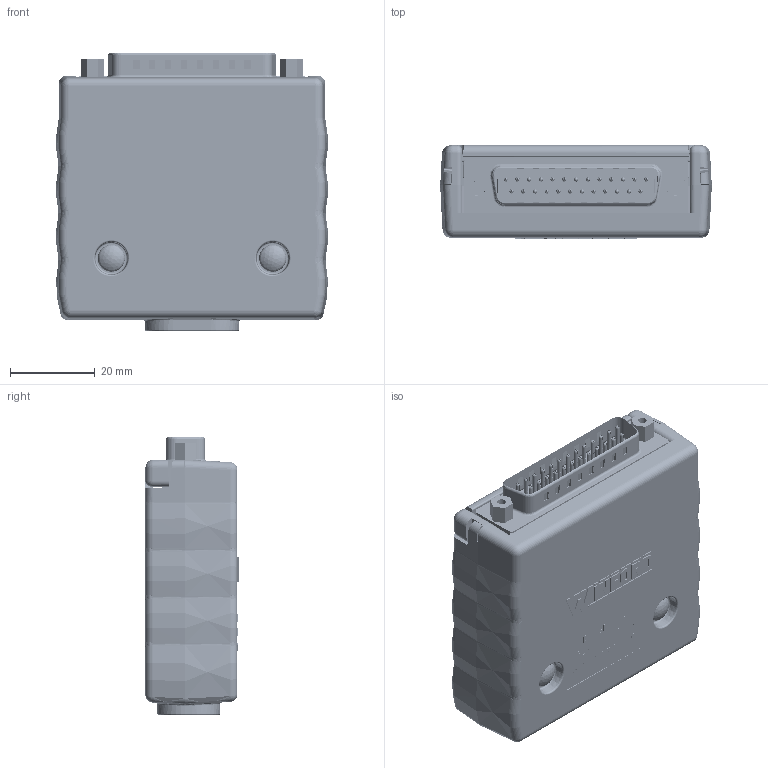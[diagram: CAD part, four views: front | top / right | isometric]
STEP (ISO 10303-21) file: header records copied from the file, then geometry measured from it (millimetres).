
FILE_DESCRIPTION (( 'STEP AP214' ), '1' );
FILE_NAME ('brkegd25m-r_rev_a.stp', '2020-12-28T00:51:33', ( '' ), ( '' ), 'SwSTEP 2.0', 'SolidWorks 2017', '' );
FILE_SCHEMA (( 'AUTOMOTIVE_DESIGN' ));
Length unit declared in the file: inch
Products named in the file (12): BRKEGD25M Board; 3.5 x 5 Nylon 6 Snap Rivet; ECB25A1 Base; Enclosure_Screw Ph 4-40 x .625_90272A112; BRKEGD25M Assembly_BRKEGD25M-R; Spring Terminal 7; Enclosure #4-40 Insert_92395A112; BRKEGD25M-R Label; ECB25A1 Cover; Male Right Angle 25 Pin; Spring Terminal 6; brkegd25m-r_rev_a
Assembly tree (16 placements, depth 3):
  brkegd25m-r_rev_a
    ECB25A1 Base
    ECB25A1 Cover
    3.5 x 5 Nylon 6 Snap Rivet  x2
    Enclosure_Screw Ph 4-40 x .625_90272A112  x2
    BRKEGD25M-R Label
    Enclosure #4-40 Insert_92395A112  x2
    BRKEGD25M Assembly_BRKEGD25M-R
      BRKEGD25M Board
      Male Right Angle 25 Pin
      Spring Terminal 6  x2
      Spring Terminal 7  x2
Bounding box: 64.15 x 22 x 65.71 mm (x, y, z)
Volume: 25841 mm3; surface area: 54756.2 mm2
Topology: 18 solids, 288 shells, 18711 faces, 46865 edges, 29052 vertices
Faces by surface type: plane 7828, bspline 5321, cylinder 4981, torus 239, cone 174, sphere 168
Entity records: 685515 total; most frequent: CARTESIAN_POINT 295011, ORIENTED_EDGE 67988, DIRECTION 51329, EDGE_CURVE 34121, VERTEX_POINT 21250, LINE 18275, VECTOR 18275, AXIS2_PLACEMENT_3D 16527
